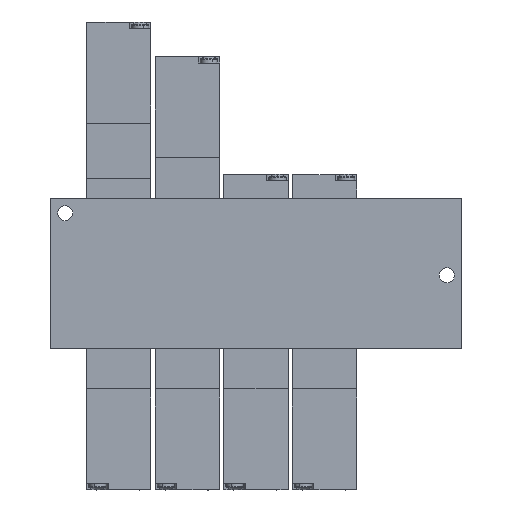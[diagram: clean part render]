
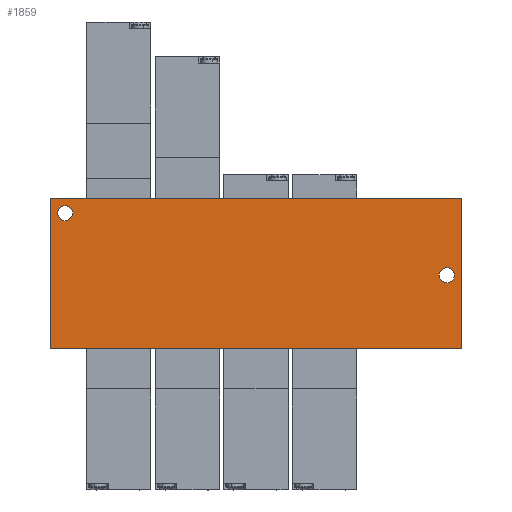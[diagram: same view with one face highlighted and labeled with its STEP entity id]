
A CAD part, front view. The second image highlights one B-rep face of the part: STEP entity #1859.
In plain terms, the highlighted planar face has unit normal (0, -1, 0).
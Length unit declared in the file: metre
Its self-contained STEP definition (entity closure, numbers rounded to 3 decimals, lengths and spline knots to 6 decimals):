
#516 = AXIS2_PLACEMENT_3D ( 'NONE', #4074, #4085, #4104 ) ;
#636 = CIRCLE ( 'NONE', #10231, 0.00175 ) ;
#818 = ORIENTED_EDGE ( 'NONE', *, *, #10752, .F. ) ;
#1240 = VERTEX_POINT ( 'NONE', #2532 ) ;
#1331 = EDGE_CURVE ( 'NONE', #3540, #6669, #11090, .T. ) ;
#1691 = ORIENTED_EDGE ( 'NONE', *, *, #1331, .F. ) ;
#1818 = FACE_BOUND ( 'NONE', #2926, .T. ) ;
#1859 = ADVANCED_FACE ( 'NONE', ( #1818, #7499, #4831 ), #10641, .F. ) ;
#2065 = VERTEX_POINT ( 'NONE', #13552 ) ;
#2142 = DIRECTION ( 'NONE',  ( 0., -1., 0. ) ) ;
#2316 = VECTOR ( 'NONE', #11161, 1. ) ;
#2532 = CARTESIAN_POINT ( 'NONE',  ( -0.048, -0.0095, 0.0175 ) ) ;
#2741 = VERTEX_POINT ( 'NONE', #7907 ) ;
#2926 = EDGE_LOOP ( 'NONE', ( #818, #1691 ) ) ;
#2934 = DIRECTION ( 'NONE',  ( 0., 0., -1. ) ) ;
#3156 = CARTESIAN_POINT ( 'NONE',  ( 0.048, -0.0095, 0.0175 ) ) ;
#3540 = VERTEX_POINT ( 'NONE', #7777 ) ;
#3702 = EDGE_CURVE ( 'NONE', #12675, #2741, #8379, .T. ) ;
#3831 = CARTESIAN_POINT ( 'NONE',  ( 0., -0.0095, 0.0175 ) ) ;
#4074 = CARTESIAN_POINT ( 'NONE',  ( -0.0445, -0.0095, 0.014 ) ) ;
#4085 = DIRECTION ( 'NONE',  ( 0., -1., 0. ) ) ;
#4104 = DIRECTION ( 'NONE',  ( 0., 0., 1. ) ) ;
#4713 = VERTEX_POINT ( 'NONE', #10066 ) ;
#4831 = FACE_OUTER_BOUND ( 'NONE', #5896, .T. ) ;
#4996 = ORIENTED_EDGE ( 'NONE', *, *, #9617, .F. ) ;
#5377 = DIRECTION ( 'NONE',  ( 0., -1., 0. ) ) ;
#5480 = AXIS2_PLACEMENT_3D ( 'NONE', #10500, #10671, #10691 ) ;
#5896 = EDGE_LOOP ( 'NONE', ( #7228, #4996, #6765, #8647 ) ) ;
#5956 = VECTOR ( 'NONE', #6103, 1. ) ;
#6103 = DIRECTION ( 'NONE',  ( 1., 0., 0. ) ) ;
#6117 = CIRCLE ( 'NONE', #7933, 0.00175 ) ;
#6291 = CARTESIAN_POINT ( 'NONE',  ( -0.048, -0.0095, 0. ) ) ;
#6546 = DIRECTION ( 'NONE',  ( 0., -1., 0. ) ) ;
#6570 = EDGE_CURVE ( 'NONE', #2741, #1240, #13859, .T. ) ;
#6669 = VERTEX_POINT ( 'NONE', #7603 ) ;
#6745 = EDGE_CURVE ( 'NONE', #4713, #2065, #636, .T. ) ;
#6765 = ORIENTED_EDGE ( 'NONE', *, *, #6570, .F. ) ;
#6772 = CARTESIAN_POINT ( 'NONE',  ( -0.0445, -0.0095, 0.014 ) ) ;
#7228 = ORIENTED_EDGE ( 'NONE', *, *, #14653, .F. ) ;
#7363 = CIRCLE ( 'NONE', #14093, 0.00175 ) ;
#7408 = VECTOR ( 'NONE', #7457, 1. ) ;
#7457 = DIRECTION ( 'NONE',  ( 0., 0., 1. ) ) ;
#7499 = FACE_BOUND ( 'NONE', #8122, .T. ) ;
#7603 = CARTESIAN_POINT ( 'NONE',  ( -0.0445, -0.0095, 0.01575 ) ) ;
#7777 = CARTESIAN_POINT ( 'NONE',  ( -0.0445, -0.0095, 0.01225 ) ) ;
#7907 = CARTESIAN_POINT ( 'NONE',  ( -0.048, -0.0095, -0.0175 ) ) ;
#7933 = AXIS2_PLACEMENT_3D ( 'NONE', #13773, #6546, #15015 ) ;
#7944 = DIRECTION ( 'NONE',  ( 0., 0., 1. ) ) ;
#8122 = EDGE_LOOP ( 'NONE', ( #14711, #13772 ) ) ;
#8292 = EDGE_CURVE ( 'NONE', #2065, #4713, #6117, .T. ) ;
#8379 = LINE ( 'NONE', #12370, #2316 ) ;
#8647 = ORIENTED_EDGE ( 'NONE', *, *, #3702, .F. ) ;
#8988 = CARTESIAN_POINT ( 'NONE',  ( 0.0445, -0.0095, -0.0005 ) ) ;
#9419 = LINE ( 'NONE', #3831, #5956 ) ;
#9617 = EDGE_CURVE ( 'NONE', #1240, #13464, #9419, .T. ) ;
#10066 = CARTESIAN_POINT ( 'NONE',  ( 0.0445, -0.0095, -0.00225 ) ) ;
#10212 = DIRECTION ( 'NONE',  ( 0., 0., 1. ) ) ;
#10231 = AXIS2_PLACEMENT_3D ( 'NONE', #8988, #2142, #10212 ) ;
#10500 = CARTESIAN_POINT ( 'NONE',  ( -0.048, -0.0095, -0.0175 ) ) ;
#10641 = PLANE ( 'NONE',  #5480 ) ;
#10671 = DIRECTION ( 'NONE',  ( 0., 1., 0. ) ) ;
#10691 = DIRECTION ( 'NONE',  ( 0., 0., 1. ) ) ;
#10752 = EDGE_CURVE ( 'NONE', #6669, #3540, #7363, .T. ) ;
#11068 = CARTESIAN_POINT ( 'NONE',  ( 0.048, -0.0095, 0. ) ) ;
#11090 = CIRCLE ( 'NONE', #516, 0.00175 ) ;
#11161 = DIRECTION ( 'NONE',  ( -1., 0., 0. ) ) ;
#11400 = LINE ( 'NONE', #11068, #14695 ) ;
#12370 = CARTESIAN_POINT ( 'NONE',  ( 0., -0.0095, -0.0175 ) ) ;
#12441 = CARTESIAN_POINT ( 'NONE',  ( 0.048, -0.0095, -0.0175 ) ) ;
#12675 = VERTEX_POINT ( 'NONE', #12441 ) ;
#13464 = VERTEX_POINT ( 'NONE', #3156 ) ;
#13552 = CARTESIAN_POINT ( 'NONE',  ( 0.0445, -0.0095, 0.00125 ) ) ;
#13772 = ORIENTED_EDGE ( 'NONE', *, *, #6745, .F. ) ;
#13773 = CARTESIAN_POINT ( 'NONE',  ( 0.0445, -0.0095, -0.0005 ) ) ;
#13859 = LINE ( 'NONE', #6291, #7408 ) ;
#14093 = AXIS2_PLACEMENT_3D ( 'NONE', #6772, #5377, #7944 ) ;
#14653 = EDGE_CURVE ( 'NONE', #13464, #12675, #11400, .T. ) ;
#14695 = VECTOR ( 'NONE', #2934, 1. ) ;
#14711 = ORIENTED_EDGE ( 'NONE', *, *, #8292, .F. ) ;
#15015 = DIRECTION ( 'NONE',  ( 0., 0., 1. ) ) ;
